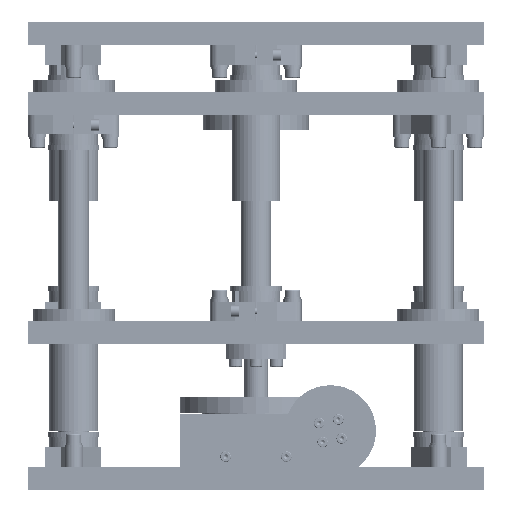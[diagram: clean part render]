
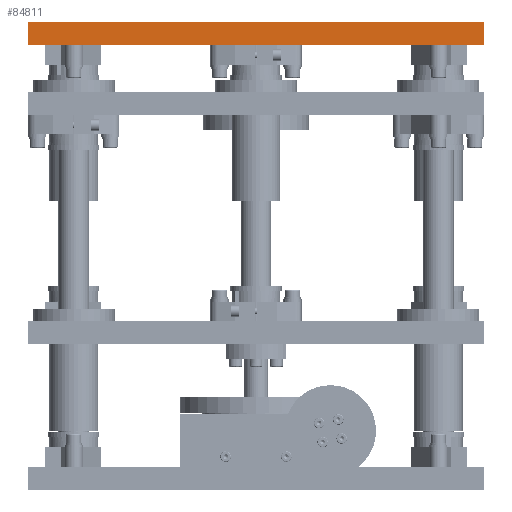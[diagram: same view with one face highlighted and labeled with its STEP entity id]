
A CAD part, left-side view. The second image highlights one B-rep face of the part: STEP entity #84811.
In plain terms, the highlighted planar face has unit normal (-1, 0, 0).
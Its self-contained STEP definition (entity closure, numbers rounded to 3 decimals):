
#2555 = EDGE_LOOP ( 'NONE', ( #17839, #29298, #22713, #51022 ) ) ;
#5158 = VECTOR ( 'NONE', #16905, 1000. ) ;
#7380 = CARTESIAN_POINT ( 'NONE',  ( -150., -150., 285.5 ) ) ;
#7604 = CARTESIAN_POINT ( 'NONE',  ( -150., 150., 285.5 ) ) ;
#10055 = VERTEX_POINT ( 'NONE', #120418 ) ;
#14602 = CARTESIAN_POINT ( 'NONE',  ( -150., 150., 285.5 ) ) ;
#15805 = EDGE_CURVE ( 'NONE', #110329, #10055, #22548, .T. ) ;
#16803 = VERTEX_POINT ( 'NONE', #134169 ) ;
#16905 = DIRECTION ( 'NONE',  ( 0., 1., 0. ) ) ;
#17839 = ORIENTED_EDGE ( 'NONE', *, *, #51609, .F. ) ;
#22548 = LINE ( 'NONE', #7380, #102326 ) ;
#22713 = ORIENTED_EDGE ( 'NONE', *, *, #15805, .F. ) ;
#24237 = LINE ( 'NONE', #114171, #51927 ) ;
#25748 = PLANE ( 'NONE',  #102215 ) ;
#28477 = DIRECTION ( 'NONE',  ( 0., 1., 0. ) ) ;
#29298 = ORIENTED_EDGE ( 'NONE', *, *, #89956, .F. ) ;
#36457 = VERTEX_POINT ( 'NONE', #127397 ) ;
#51022 = ORIENTED_EDGE ( 'NONE', *, *, #131514, .F. ) ;
#51609 = EDGE_CURVE ( 'NONE', #36457, #16803, #118800, .T. ) ;
#51927 = VECTOR ( 'NONE', #82309, 1000. ) ;
#82113 = DIRECTION ( 'NONE',  ( 0., 0., 1. ) ) ;
#82309 = DIRECTION ( 'NONE',  ( 0., -1., 0. ) ) ;
#84811 = ADVANCED_FACE ( 'NONE', ( #99021 ), #25748, .F. ) ;
#88166 = LINE ( 'NONE', #14602, #5158 ) ;
#89956 = EDGE_CURVE ( 'NONE', #10055, #36457, #88166, .T. ) ;
#90782 = DIRECTION ( 'NONE',  ( 1., 0., 0. ) ) ;
#99021 = FACE_OUTER_BOUND ( 'NONE', #2555, .T. ) ;
#102215 = AXIS2_PLACEMENT_3D ( 'NONE', #7604, #90782, #28477 ) ;
#102326 = VECTOR ( 'NONE', #132453, 1000. ) ;
#102904 = CARTESIAN_POINT ( 'NONE',  ( -150., -150., 300.5 ) ) ;
#110329 = VERTEX_POINT ( 'NONE', #102904 ) ;
#114171 = CARTESIAN_POINT ( 'NONE',  ( -150., -150., 300.5 ) ) ;
#118800 = LINE ( 'NONE', #123951, #125277 ) ;
#120418 = CARTESIAN_POINT ( 'NONE',  ( -150., -150., 285.5 ) ) ;
#123951 = CARTESIAN_POINT ( 'NONE',  ( -150., 150., 285.5 ) ) ;
#125277 = VECTOR ( 'NONE', #82113, 1000. ) ;
#127397 = CARTESIAN_POINT ( 'NONE',  ( -150., 150., 285.5 ) ) ;
#131514 = EDGE_CURVE ( 'NONE', #16803, #110329, #24237, .T. ) ;
#132453 = DIRECTION ( 'NONE',  ( 0., 0., -1. ) ) ;
#134169 = CARTESIAN_POINT ( 'NONE',  ( -150., 150., 300.5 ) ) ;
